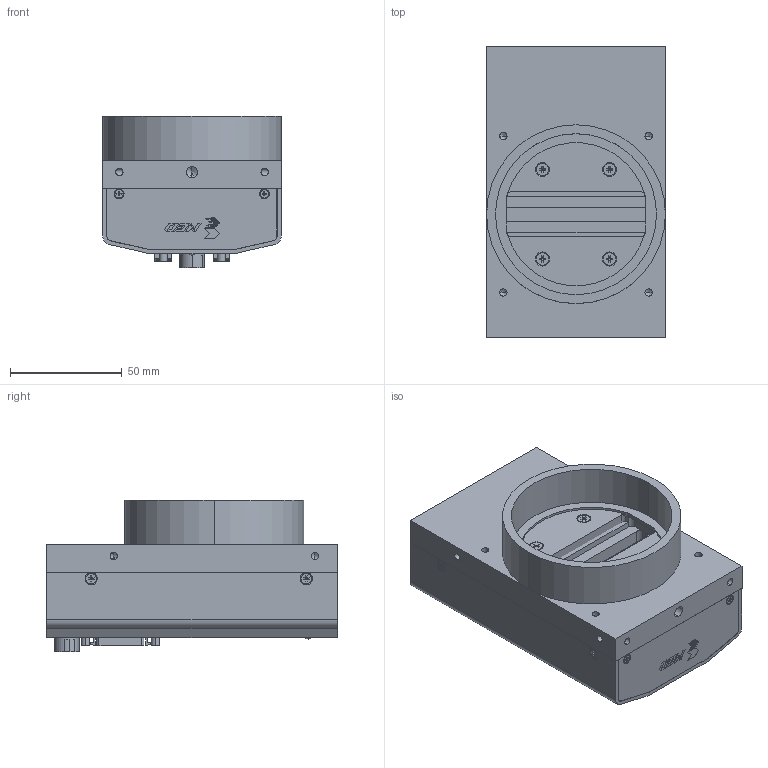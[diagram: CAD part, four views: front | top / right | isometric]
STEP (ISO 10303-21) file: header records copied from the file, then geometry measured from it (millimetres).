
FILE_DESCRIPTION (( 'STEP AP203' ), '1' );
FILE_NAME ('XCM16K80SAT8.STEP', '2014-05-01T23:31:45', ( 'H-TOYOTA2' ), ( 'Microsoft' ), 'SwSTEP 2.0', 'SolidWorks 2013', '' );
FILE_SCHEMA (( 'CONFIG_CONTROL_DESIGN' ));
Length unit declared in the file: millimetre
Products named in the file (11): Power Connector(HIROSE HR10A 4P); CameraLink Connector(MDR26); cross recessed countersunk head screw_jis_JIS 1111 Cross recessed countersunk head screw - M2.5 x 5 - Z --5N; cross recessed countersunk head screw_jis_JIS 1111 Cross recessed countersunk head screw - M2 x 4 - Z --4N; フロントパネル; cross recessed countersunk head screw_jis_JIS 1111 Cross recessed countersunk head screw - M3 x 6 - Z --6N; カバー; XCM16K80SAT8; side plate; mount_XCM2740MLCT3_M72; indicator
Assembly tree (21 placements, depth 2):
  XCM16K80SAT8
    フロントパネル
    カバー
    side plate  x2
    mount_XCM2740MLCT3_M72
    indicator
    Power Connector(HIROSE HR10A 4P)
    CameraLink Connector(MDR26)  x2
    cross recessed countersunk head screw_jis_JIS 1111 Cross recessed countersunk head screw - M2.5 x 5 - Z --5N  x4
    cross recessed countersunk head screw_jis_JIS 1111 Cross recessed countersunk head screw - M2 x 4 - Z --4N  x4
    cross recessed countersunk head screw_jis_JIS 1111 Cross recessed countersunk head screw - M3 x 6 - Z --6N  x4
Bounding box: 80 x 130 x 67.8 mm (x, y, z)
Volume: 229333.3 mm3; surface area: 96814.6 mm2
Topology: 21 solids, 21 shells, 1269 faces, 3199 edges, 2002 vertices
Faces by surface type: plane 806, cylinder 229, cone 208, torus 24, sphere 2
Entity records: 20616 total; most frequent: CARTESIAN_POINT 3458, DIRECTION 3312, ORIENTED_EDGE 3218, EDGE_CURVE 1609, VECTOR 1124, LINE 1124, AXIS2_PLACEMENT_3D 1094, VERTEX_POINT 1040
